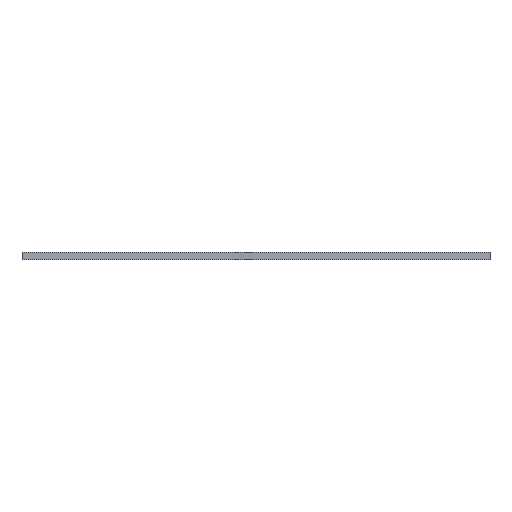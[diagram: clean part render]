
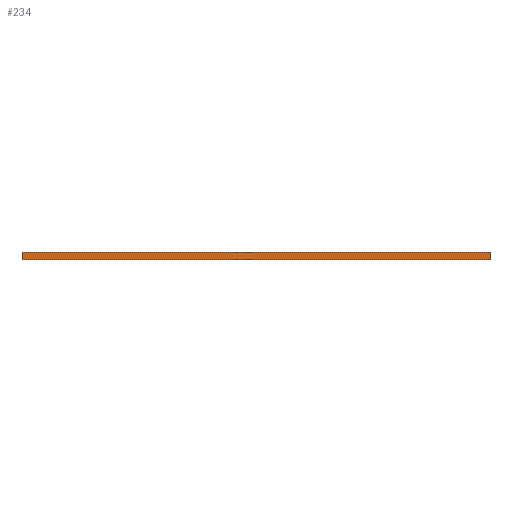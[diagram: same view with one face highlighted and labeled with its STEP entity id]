
A CAD part, top view. The second image highlights one B-rep face of the part: STEP entity #234.
In plain terms, the highlighted planar face has unit normal (0, 0, 1).
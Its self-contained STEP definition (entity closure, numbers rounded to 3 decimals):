
#234=ADVANCED_FACE('',(#492),#493,.T.);
#492=FACE_OUTER_BOUND('',#769,.T.);
#493=PLANE('',#770);
#769=EDGE_LOOP('',(#1393,#1394,#1395,#1396));
#770=AXIS2_PLACEMENT_3D('',#1397,#1398,#1399);
#1393=ORIENTED_EDGE('',*,*,#1926,.T.);
#1394=ORIENTED_EDGE('',*,*,#1924,.T.);
#1395=ORIENTED_EDGE('',*,*,#1927,.F.);
#1396=ORIENTED_EDGE('',*,*,#1928,.F.);
#1397=CARTESIAN_POINT('',(2500.0,-15.5,0.));
#1398=DIRECTION('',(0.0,0.,1.0));
#1399=DIRECTION('',(0.0,1.0,0.));
#1924=EDGE_CURVE('',#2370,#2372,#2374,.T.);
#1926=EDGE_CURVE('',#2376,#2370,#2377,.T.);
#1927=EDGE_CURVE('',#2378,#2372,#2379,.T.);
#1928=EDGE_CURVE('',#2376,#2378,#2380,.T.);
#2370=VERTEX_POINT('',#2993);
#2372=VERTEX_POINT('',#2996);
#2374=LINE('',#2999,#3000);
#2376=VERTEX_POINT('',#3002);
#2377=LINE('',#3003,#3004);
#2378=VERTEX_POINT('',#3005);
#2379=LINE('',#3006,#3007);
#2380=LINE('',#3008,#3009);
#2993=CARTESIAN_POINT('',(3500.0,42.,0.));
#2996=CARTESIAN_POINT('',(0.0,42.,0.));
#2999=CARTESIAN_POINT('',(2500.0,42.,0.));
#3000=VECTOR('',#3467,1.0);
#3002=CARTESIAN_POINT('',(3500.0,-15.5,0.));
#3003=CARTESIAN_POINT('',(3500.0,-15.5,0.));
#3004=VECTOR('',#3468,1.0);
#3005=CARTESIAN_POINT('',(0.0,-15.5,0.));
#3006=CARTESIAN_POINT('',(0.0,-15.5,0.));
#3007=VECTOR('',#3469,1.0);
#3008=CARTESIAN_POINT('',(2500.0,-15.5,0.));
#3009=VECTOR('',#3470,1.0);
#3467=DIRECTION('',(-1.0,0.0,0.0));
#3468=DIRECTION('',(0.0,1.0,0.));
#3469=DIRECTION('',(0.0,1.0,0.));
#3470=DIRECTION('',(-1.0,0.0,0.0));
